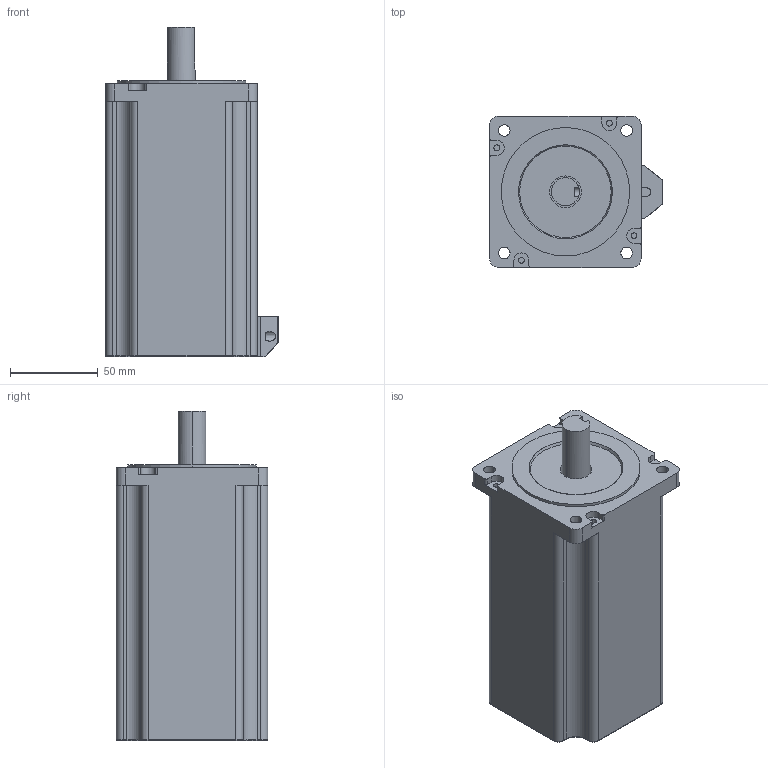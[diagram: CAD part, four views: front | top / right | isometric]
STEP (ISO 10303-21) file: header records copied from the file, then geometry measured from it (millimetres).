
FILE_DESCRIPTION((''),'2;1');
FILE_NAME('QL86HB156-06A','2022-03-24T10:04:46',('qingl'),(''),'CREO PARAMETRIC BY PTC INC, 2019224','CREO PARAMETRIC BY PTC INC, 2019224','');
FILE_SCHEMA(('CONFIG_CONTROL_DESIGN'));
Length unit declared in the file: millimetre
Products named in the file (1): QL86HB156-06A
Bounding box: 98 x 86 x 187 mm (x, y, z)
Volume: 1046930.5 mm3; surface area: 69387.5 mm2
Topology: 1 solids, 1 shells, 309 faces, 843 edges, 551 vertices
Faces by surface type: cylinder 221, plane 62, torus 12, bspline 8, cone 4, sphere 2
Entity records: 14631 total; most frequent: CARTESIAN_POINT 7207, ORIENTED_EDGE 1682, DIRECTION 1337, EDGE_CURVE 841, VERTEX_POINT 551, AXIS2_PLACEMENT_3D 497, VECTOR 343, LINE 343
